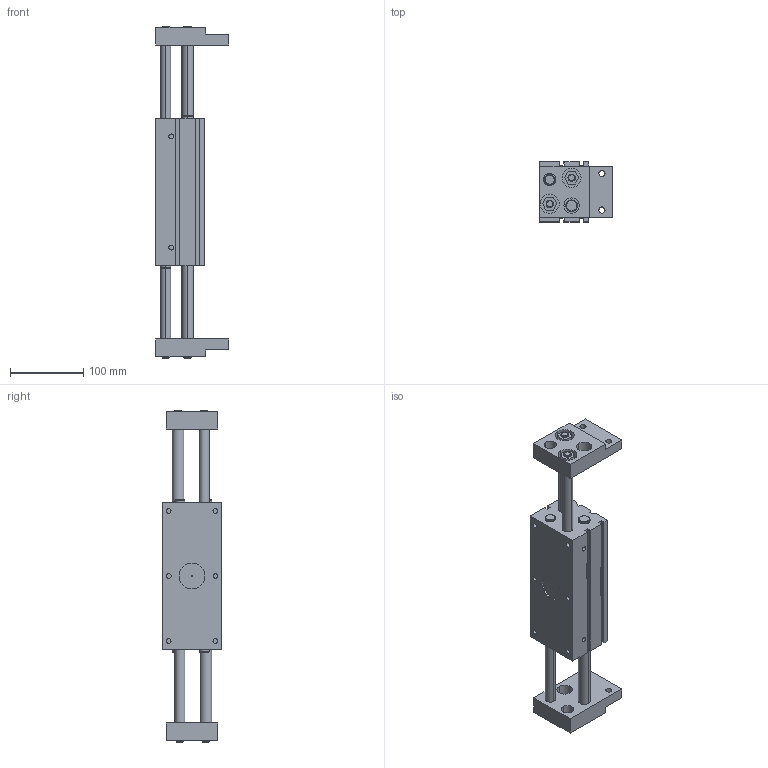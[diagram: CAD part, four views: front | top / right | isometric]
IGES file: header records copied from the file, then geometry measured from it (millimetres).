
Global section: file name: No Iges File Name specified; native system: Autodesk Inventor 2011; preprocessor: AutoDesk Inventor Iges Exporter R2011; author: airolcr1; date: 20110614.105448; units: millimetre
Bounding box: 101 x 82 x 454 mm (x, y, z)
Volume: 1408654.5 mm3; surface area: 234676.7 mm2
Topology: 3 solids, 3 shells, 203 faces, 494 edges, 322 vertices
Faces by surface type: plane 101, bspline 56, cylinder 16, cone 16, revolution 14
